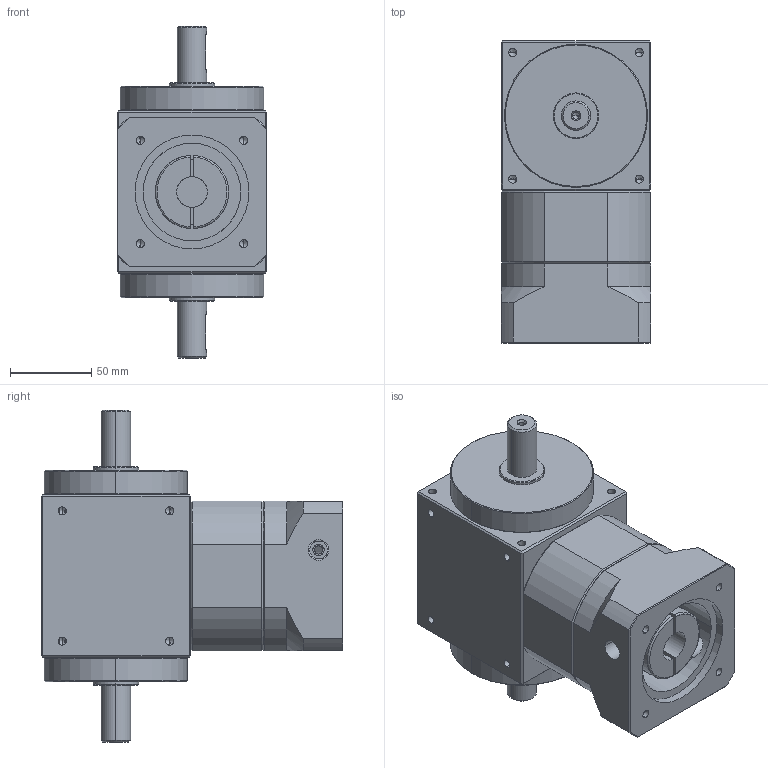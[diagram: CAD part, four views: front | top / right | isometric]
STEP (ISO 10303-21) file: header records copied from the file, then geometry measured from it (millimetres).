
FILE_DESCRIPTION (( 'STEP AP203' ), '1' );
FILE_NAME ('KHT90-S2-L1£r70PCD£r90M6.STEP', '2014-03-26T07:27:13', ( 'KELLY' ), ( '' ), 'SwSTEP 2.0', 'SolidWorks 2012', '' );
FILE_SCHEMA (( 'CONFIG_CONTROL_DESIGN' ));
Length unit declared in the file: millimetre
Products named in the file (1): KHT90-S2-L1｣r70PCD｣r90M6
Bounding box: 92 x 185.5 x 204 mm (x, y, z)
Volume: 1674598 mm3; surface area: 162209.5 mm2
Topology: 5 solids, 5 shells, 327 faces, 754 edges, 412 vertices
Faces by surface type: cylinder 140, cone 100, plane 83, torus 4
Entity records: 9725 total; most frequent: CARTESIAN_POINT 2616, DIRECTION 1512, ORIENTED_EDGE 1404, EDGE_CURVE 702, AXIS2_PLACEMENT_3D 598, VERTEX_POINT 412, EDGE_LOOP 374, FACE_OUTER_BOUND 327
